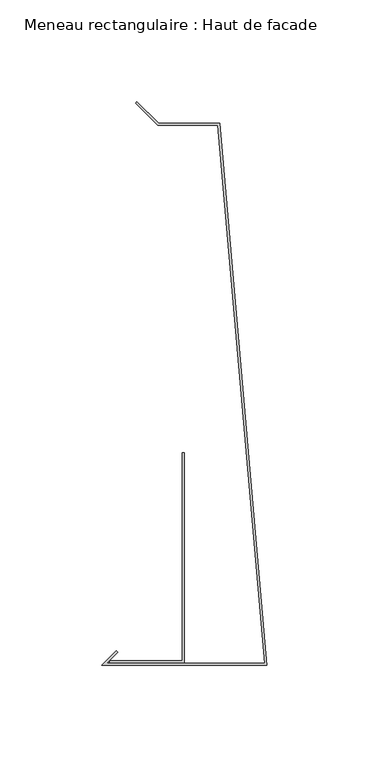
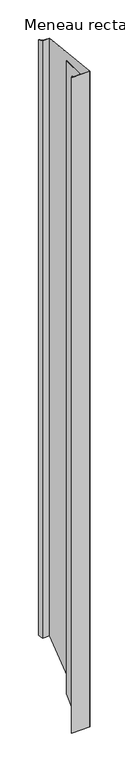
"""IFC4 building model written with IfcOpenShell, lengths in millimetres: member geometry, Meneau rectangulaire : Haut de facade."""

from ifc_helpers import new_model, si_unit, origin, place, context, project, spatial, faceted_brep, source, transform, mapped, element, save


def meneau_rectangulaire_haut_de_facade_2435eed7(model_context):
    return source(origin(), model_context, "Body", "Brep", [
        faceted_brep([(-24.0647895, 160.703755, 0.0), (-1.0913085, -103.2, 0.0), (-78.5857864, -103.2, 0.0), (-73.2218254, -97.836039, 0.0), (-73.9289322, -97.1289322, 0.0), (-81.0, -104.2, 0.0), (0.0, -104.2, 0.0), (-23.1484584, 161.703755, 0.0), (-53.1484584, 161.703755, 0.0), (-63.7550601, 172.3103567, 0.0), (-64.4621669, 171.6032499, 0.0), (-53.5626719, 160.703755, 0.0), (-24.0647895, 160.703755, -2739.296245), (-1.0913085, -103.2, -3003.2), (-78.5857864, -103.2, -3003.2), (-73.2218254, -97.836039, -2997.836039), (-73.9289322, -97.1289322, -2997.1289322), (-81.0, -104.2, -3004.2), (0.0, -104.2, -3004.2), (-23.1484584, 161.703755, -2738.296245), (-53.1484584, 161.703755, -2738.296245), (-63.7550601, 172.3103567, -2727.6896433), (-64.4621669, 171.6032499, -2728.3967501), (-53.5626719, 160.703755, -2739.296245)], [[[0, 1, 2, 3, 4, 5, 6, 7, 8, 9, 10, 11]], [[1, 0, 12, 13]], [[2, 1, 13, 14]], [[3, 2, 14, 15]], [[4, 3, 15, 16]], [[5, 4, 16, 17]], [[6, 5, 17, 18]], [[7, 6, 18, 19]], [[8, 7, 19, 20]], [[9, 8, 20, 21]], [[10, 9, 21, 22]], [[11, 10, 22, 23]], [[0, 11, 23, 12]], [[12, 23, 22, 21, 20, 19, 18, 17, 16, 15, 14, 13]]]),
        faceted_brep([(-40.5477541, -102.9846816, 0.0), (-40.5477541, -0.0384227, 0.0), (-41.5477541, -0.0384227, 0.0), (-41.5477541, -101.9846816, 0.0), (-77.0752814, -101.9846816, 0.0), (-77.0752814, -102.9846816, 0.0), (-40.5477541, -102.9846816, -3002.9846816), (-40.5477541, -0.0384227, -2900.0384227), (-41.5477541, -0.0384227, -2900.0384227), (-41.5477541, -101.9846816, -3001.9846816), (-77.0752814, -101.9846816, -3001.9846816), (-77.0752814, -102.9846816, -3002.9846816)], [[[0, 1, 2, 3, 4, 5]], [[1, 0, 6, 7]], [[2, 1, 7, 8]], [[3, 2, 8, 9]], [[4, 3, 9, 10]], [[5, 4, 10, 11]], [[0, 5, 11, 6]], [[6, 11, 10, 9, 8, 7]]]),
    ])


if __name__ == "__main__":
    model = new_model("IFC4")
    model_context = context("Model", 3, world=origin())
    ifc_project = project(units=[si_unit("LENGTHUNIT", "METRE", prefix="MILLI")], contexts=[model_context])
    site = spatial("IfcSite", under=ifc_project)
    building = spatial("IfcBuilding", under=site)
    placement = place(None, origin())
    meneau_rectangulaire_haut_de_facade_shape = meneau_rectangulaire_haut_de_facade_2435eed7(model_context)
    element("IfcMember", 1, ObjectType="Meneau rectangulaire : Haut de facade", at=placement, inside=building, context=model_context, shape_type="MappedRepresentation", body=[
        mapped(meneau_rectangulaire_haut_de_facade_shape, transform((0.0, 0.0, 0.0), x_axis=(1.0, 0.0, 0.0), y_axis=(0.0, 1.0, 0.0), z_axis=(0.0, 0.0, 1.0))),
    ])
    save(model, "model.ifc")
